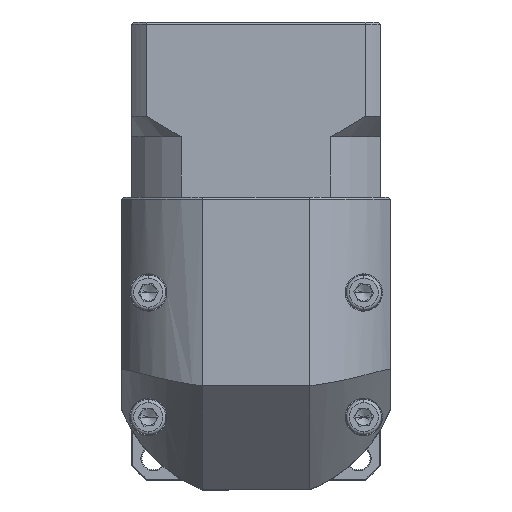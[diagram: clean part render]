
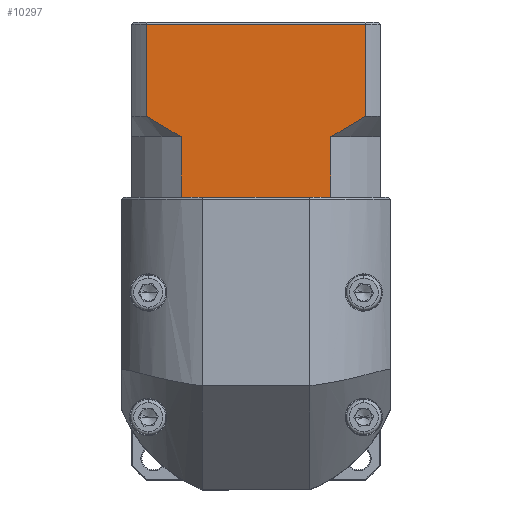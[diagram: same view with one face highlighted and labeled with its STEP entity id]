
A CAD part, top view. The second image highlights one B-rep face of the part: STEP entity #10297.
In plain terms, the highlighted planar face has unit normal (0, 0, 1).
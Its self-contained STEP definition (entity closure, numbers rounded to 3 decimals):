
#667 = CARTESIAN_POINT ( 'NONE',  ( -37.2, 76.693, 65.811 ) ) ;
#2620 = CARTESIAN_POINT ( 'NONE',  ( -87.377, 74.92, 65.811 ) ) ;
#3251 = CARTESIAN_POINT ( 'NONE',  ( -42.748, 73.243, 65.811 ) ) ;
#4621 = B_SPLINE_CURVE_WITH_KNOTS ( 'NONE', 3,
 ( #53810, #97480, #3251, #62475, #46176, #45799 ),
 .UNSPECIFIED., .F., .F.,
 ( 4, 2, 4 ),
 ( 0.1, 0.104, 0.109 ),
 .UNSPECIFIED. ) ;
#5838 = VECTOR ( 'NONE', #64372, 1000. ) ;
#9066 = EDGE_CURVE ( 'NONE', #84613, #11145, #82085, .T. ) ;
#9869 = CARTESIAN_POINT ( 'NONE',  ( -83.138, 72.441, 65.811 ) ) ;
#9885 = CARTESIAN_POINT ( 'NONE',  ( -46.621, 57.193, 65.811 ) ) ;
#10122 = CARTESIAN_POINT ( 'NONE',  ( -81.686, 71.693, 65.811 ) ) ;
#10297 = ADVANCED_FACE ( 'NONE', ( #47566 ), #102853, .F. ) ;
#10809 = VECTOR ( 'NONE', #37503, 1000. ) ;
#11145 = VERTEX_POINT ( 'NONE', #9885 ) ;
#13190 = EDGE_CURVE ( 'NONE', #37935, #33940, #16678, .T. ) ;
#16206 = CARTESIAN_POINT ( 'NONE',  ( -80.695, 57.193, 65.811 ) ) ;
#16678 = LINE ( 'NONE', #37127, #5838 ) ;
#18088 = EDGE_CURVE ( 'NONE', #11145, #21876, #100617, .T. ) ;
#19112 = CARTESIAN_POINT ( 'NONE',  ( -37.2, 71.693, 65.811 ) ) ;
#21876 = VERTEX_POINT ( 'NONE', #43808 ) ;
#22084 = B_SPLINE_CURVE_WITH_KNOTS ( 'NONE', 3,
 ( #97263, #63365, #2620, #37224, #9869, #70946 ),
 .UNSPECIFIED., .F., .F.,
 ( 4, 2, 4 ),
 ( 0.052, 0.057, 0.062 ),
 .UNSPECIFIED. ) ;
#24478 = CARTESIAN_POINT ( 'NONE',  ( -93.658, 99.393, 65.811 ) ) ;
#28138 = EDGE_LOOP ( 'NONE', ( #92439, #74358, #92802, #29473, #101850, #67660, #101801, #111635, #61950, #71375 ) ) ;
#29473 = ORIENTED_EDGE ( 'NONE', *, *, #100682, .T. ) ;
#32324 = CARTESIAN_POINT ( 'NONE',  ( -90.116, 71.693, 65.811 ) ) ;
#32506 = DIRECTION ( 'NONE',  ( 0., 0., -1. ) ) ;
#33169 = AXIS2_PLACEMENT_3D ( 'NONE', #24478, #32506, #101709 ) ;
#33940 = VERTEX_POINT ( 'NONE', #81418 ) ;
#35879 = CARTESIAN_POINT ( 'NONE',  ( -81.686, 57.193, 65.811 ) ) ;
#37127 = CARTESIAN_POINT ( 'NONE',  ( -93.658, 98.893, 65.811 ) ) ;
#37188 = CARTESIAN_POINT ( 'NONE',  ( -45.63, 71.693, 65.811 ) ) ;
#37224 = CARTESIAN_POINT ( 'NONE',  ( -84.569, 73.244, 65.811 ) ) ;
#37503 = DIRECTION ( 'NONE',  ( 1., 0., 0. ) ) ;
#37935 = VERTEX_POINT ( 'NONE', #97939 ) ;
#39931 = CARTESIAN_POINT ( 'NONE',  ( -93.658, 57.193, 65.811 ) ) ;
#40398 = EDGE_CURVE ( 'NONE', #47290, #111435, #4621, .T. ) ;
#43141 = VECTOR ( 'NONE', #52409, 1000. ) ;
#43808 = CARTESIAN_POINT ( 'NONE',  ( -45.63, 57.193, 65.811 ) ) ;
#45546 = EDGE_CURVE ( 'NONE', #83878, #84613, #80875, .T. ) ;
#45799 = CARTESIAN_POINT ( 'NONE',  ( -37.2, 76.693, 65.811 ) ) ;
#46047 = VECTOR ( 'NONE', #88710, 1000. ) ;
#46176 = CARTESIAN_POINT ( 'NONE',  ( -38.563, 75.791, 65.811 ) ) ;
#47290 = VERTEX_POINT ( 'NONE', #37188 ) ;
#47566 = FACE_OUTER_BOUND ( 'NONE', #28138, .T. ) ;
#49901 = EDGE_CURVE ( 'NONE', #47290, #21876, #54050, .T. ) ;
#50312 = CARTESIAN_POINT ( 'NONE',  ( -90.116, 76.693, 65.811 ) ) ;
#50878 = VECTOR ( 'NONE', #100313, 1000. ) ;
#52409 = DIRECTION ( 'NONE',  ( 0., -1., 0. ) ) ;
#52825 = LINE ( 'NONE', #19112, #46047 ) ;
#53810 = CARTESIAN_POINT ( 'NONE',  ( -45.63, 71.693, 65.811 ) ) ;
#54050 = LINE ( 'NONE', #104498, #43141 ) ;
#60832 = EDGE_CURVE ( 'NONE', #37935, #111435, #52825, .T. ) ;
#61950 = ORIENTED_EDGE ( 'NONE', *, *, #49901, .F. ) ;
#62475 = CARTESIAN_POINT ( 'NONE',  ( -39.943, 74.918, 65.811 ) ) ;
#62692 = DIRECTION ( 'NONE',  ( 0., 1., 0. ) ) ;
#62711 = VERTEX_POINT ( 'NONE', #50312 ) ;
#63365 = CARTESIAN_POINT ( 'NONE',  ( -88.756, 75.793, 65.811 ) ) ;
#64180 = VERTEX_POINT ( 'NONE', #10122 ) ;
#64372 = DIRECTION ( 'NONE',  ( -1., 0., 0. ) ) ;
#66270 = VECTOR ( 'NONE', #62692, 1000. ) ;
#67660 = ORIENTED_EDGE ( 'NONE', *, *, #45546, .T. ) ;
#70946 = CARTESIAN_POINT ( 'NONE',  ( -81.686, 71.693, 65.811 ) ) ;
#71375 = ORIENTED_EDGE ( 'NONE', *, *, #40398, .T. ) ;
#71684 = LINE ( 'NONE', #32324, #89439 ) ;
#72734 = CARTESIAN_POINT ( 'NONE',  ( -93.658, 57.193, 65.811 ) ) ;
#74358 = ORIENTED_EDGE ( 'NONE', *, *, #13190, .T. ) ;
#74400 = EDGE_CURVE ( 'NONE', #83878, #64180, #109860, .T. ) ;
#74781 = DIRECTION ( 'NONE',  ( 1., 0., 0. ) ) ;
#76895 = EDGE_CURVE ( 'NONE', #62711, #33940, #71684, .T. ) ;
#79799 = CARTESIAN_POINT ( 'NONE',  ( -81.686, 71.693, 65.811 ) ) ;
#80875 = LINE ( 'NONE', #39931, #84795 ) ;
#81418 = CARTESIAN_POINT ( 'NONE',  ( -90.116, 98.893, 65.811 ) ) ;
#82085 = LINE ( 'NONE', #92292, #50878 ) ;
#83878 = VERTEX_POINT ( 'NONE', #35879 ) ;
#84613 = VERTEX_POINT ( 'NONE', #16206 ) ;
#84795 = VECTOR ( 'NONE', #74781, 1000. ) ;
#88710 = DIRECTION ( 'NONE',  ( 0., -1., 0. ) ) ;
#89439 = VECTOR ( 'NONE', #103451, 1000. ) ;
#92292 = CARTESIAN_POINT ( 'NONE',  ( -93.658, 57.193, 65.811 ) ) ;
#92439 = ORIENTED_EDGE ( 'NONE', *, *, #60832, .F. ) ;
#92802 = ORIENTED_EDGE ( 'NONE', *, *, #76895, .F. ) ;
#97263 = CARTESIAN_POINT ( 'NONE',  ( -90.116, 76.693, 65.811 ) ) ;
#97480 = CARTESIAN_POINT ( 'NONE',  ( -44.174, 72.443, 65.811 ) ) ;
#97939 = CARTESIAN_POINT ( 'NONE',  ( -37.2, 98.893, 65.811 ) ) ;
#100313 = DIRECTION ( 'NONE',  ( 1., 0., 0. ) ) ;
#100617 = LINE ( 'NONE', #72734, #10809 ) ;
#100682 = EDGE_CURVE ( 'NONE', #62711, #64180, #22084, .T. ) ;
#101709 = DIRECTION ( 'NONE',  ( 0., 1., 0. ) ) ;
#101801 = ORIENTED_EDGE ( 'NONE', *, *, #9066, .T. ) ;
#101850 = ORIENTED_EDGE ( 'NONE', *, *, #74400, .F. ) ;
#102853 = PLANE ( 'NONE',  #33169 ) ;
#103451 = DIRECTION ( 'NONE',  ( 0., 1., 0. ) ) ;
#104498 = CARTESIAN_POINT ( 'NONE',  ( -45.63, 71.693, 65.811 ) ) ;
#109860 = LINE ( 'NONE', #79799, #66270 ) ;
#111435 = VERTEX_POINT ( 'NONE', #667 ) ;
#111635 = ORIENTED_EDGE ( 'NONE', *, *, #18088, .T. ) ;
